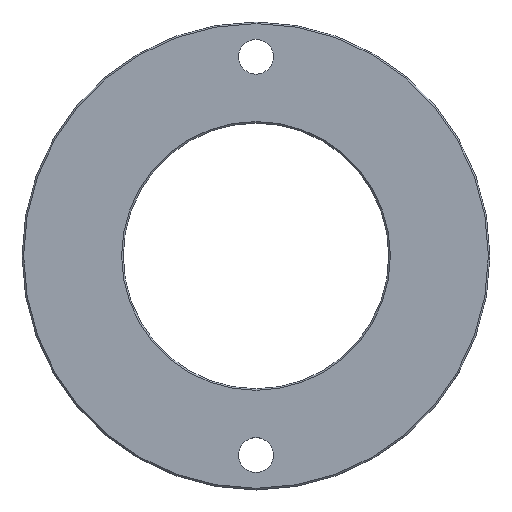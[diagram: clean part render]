
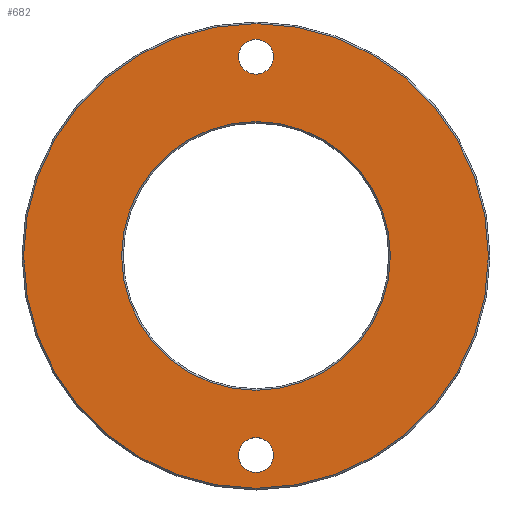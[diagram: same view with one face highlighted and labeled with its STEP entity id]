
A CAD part, top view. The second image highlights one B-rep face of the part: STEP entity #682.
In plain terms, the highlighted planar face has unit normal (0, 0, 1).
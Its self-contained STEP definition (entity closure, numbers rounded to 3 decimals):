
#93=VERTEX_POINT(' ',#94);
#94=CARTESIAN_POINT('',(0.,68.5,0.));
#95=VERTEX_POINT(' ',#96);
#96=CARTESIAN_POINT('',(0.,57.5,0.));
#101=VERTEX_POINT(' ',#102);
#102=CARTESIAN_POINT('',(0.,-57.5,0.));
#103=VERTEX_POINT(' ',#104);
#104=CARTESIAN_POINT('',(0.,-68.5,0.));
#137=VERTEX_POINT(' ',#138);
#138=CARTESIAN_POINT('',(0.,-42.5,0.));
#139=VERTEX_POINT(' ',#140);
#140=CARTESIAN_POINT('',(0.,42.5,0.));
#141=VERTEX_POINT(' ',#142);
#142=CARTESIAN_POINT('',(0.,-73.5,0.));
#143=VERTEX_POINT(' ',#144);
#144=CARTESIAN_POINT('',(0.,73.5,0.));
#168=CIRCLE('',#169,5.5);
#169=AXIS2_PLACEMENT_3D('',#170,#171,#172);
#170=CARTESIAN_POINT('',(0.,63.,0.));
#171=DIRECTION('',(0.,0.,1.));
#172=DIRECTION('',(1.,0.,0.));
#173=EDGE_CURVE(' ',#93,#95,#168,.T.);
#185=CIRCLE('',#186,5.5);
#186=AXIS2_PLACEMENT_3D('',#187,#188,#189);
#187=CARTESIAN_POINT('',(0.,63.,0.));
#188=DIRECTION('',(0.,0.,1.));
#189=DIRECTION('',(-1.,0.,0.));
#190=EDGE_CURVE(' ',#95,#93,#185,.T.);
#202=CIRCLE('',#203,5.5);
#203=AXIS2_PLACEMENT_3D('',#204,#205,#206);
#204=CARTESIAN_POINT('',(0.,-63.,0.));
#205=DIRECTION('',(0.,0.,1.));
#206=DIRECTION('',(1.,0.,0.));
#207=EDGE_CURVE(' ',#101,#103,#202,.T.);
#219=CIRCLE('',#220,5.5);
#220=AXIS2_PLACEMENT_3D('',#221,#222,#223);
#221=CARTESIAN_POINT('',(0.,-63.,0.));
#222=DIRECTION('',(0.,0.,1.));
#223=DIRECTION('',(-1.,0.,0.));
#224=EDGE_CURVE(' ',#103,#101,#219,.T.);
#371=CIRCLE('',#372,42.5);
#372=AXIS2_PLACEMENT_3D('',#373,#374,#375);
#373=CARTESIAN_POINT('',(0.,0.,0.));
#374=DIRECTION('',(0.,0.,1.));
#375=DIRECTION('',(1.,0.,0.));
#376=EDGE_CURVE(' ',#139,#137,#371,.T.);
#377=CIRCLE('',#378,42.5);
#378=AXIS2_PLACEMENT_3D('',#379,#380,#381);
#379=CARTESIAN_POINT('',(0.,0.,0.));
#380=DIRECTION('',(0.,0.,1.));
#381=DIRECTION('',(-1.,0.,0.));
#382=EDGE_CURVE(' ',#137,#139,#377,.T.);
#383=CIRCLE('',#384,73.5);
#384=AXIS2_PLACEMENT_3D('',#385,#386,#387);
#385=CARTESIAN_POINT('',(0.,0.,0.));
#386=DIRECTION('',(0.,0.,-1.));
#387=DIRECTION('',(-1.,0.,0.));
#388=EDGE_CURVE(' ',#143,#141,#383,.T.);
#389=CIRCLE('',#390,73.5);
#390=AXIS2_PLACEMENT_3D('',#391,#392,#393);
#391=CARTESIAN_POINT('',(0.,0.,0.));
#392=DIRECTION('',(0.,0.,-1.));
#393=DIRECTION('',(1.,0.,0.));
#394=EDGE_CURVE(' ',#141,#143,#389,.T.);
#661=ORIENTED_EDGE('',*,*,#388,.F.);
#662=ORIENTED_EDGE('',*,*,#394,.F.);
#663=EDGE_LOOP('',(#661,#662));
#664=FACE_OUTER_BOUND('',#663,.T.);
#665=ORIENTED_EDGE('',*,*,#382,.F.);
#666=ORIENTED_EDGE('',*,*,#376,.F.);
#667=EDGE_LOOP('',(#665,#666));
#668=FACE_BOUND('',#667,.T.);
#669=ORIENTED_EDGE('',*,*,#173,.F.);
#670=ORIENTED_EDGE('',*,*,#190,.F.);
#671=EDGE_LOOP('',(#669,#670));
#672=FACE_BOUND('',#671,.T.);
#673=ORIENTED_EDGE('',*,*,#207,.F.);
#674=ORIENTED_EDGE('',*,*,#224,.F.);
#675=EDGE_LOOP('',(#673,#674));
#676=FACE_BOUND('',#675,.T.);
#677=PLANE('',#678);
#678=AXIS2_PLACEMENT_3D('',#679,#680,#681);
#679=CARTESIAN_POINT('',(74.,0.,0.));
#680=DIRECTION('',(0.,0.,1.));
#681=DIRECTION('',(0.,1.,0.));
#682=ADVANCED_FACE('',(#664,#668,#672,#676),#677,.T.);
